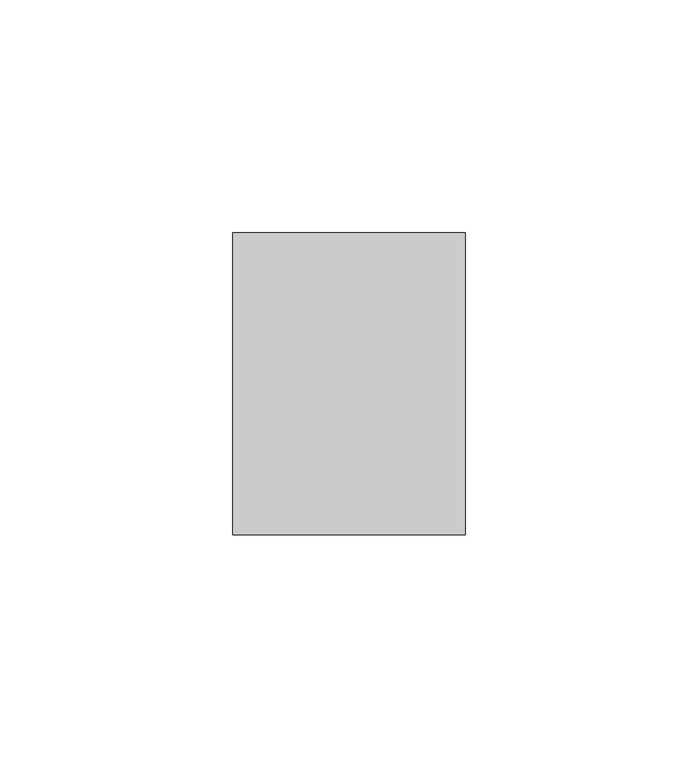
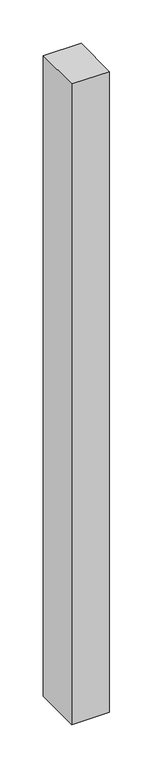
"""IFC4 building model written with IfcOpenShell, lengths in millimetres: member geometry, Прямоугольный импост : 50 мм x 65 мм."""

from ifc_helpers import new_model, si_unit, frame, origin, place, context, project, spatial, polyline, outline, extrude, source, transform, mapped, element, save


def member_0539de59(model_context):
    return source(origin(), model_context, "Body", "SweptSolid", [
        extrude(outline(polyline([(25.0, 32.5), (25.0, -32.5), (-25.0, -32.5), (-25.0, 32.5), (25.0, 32.5)])), frame((0.0, 0.0, -900.0000003), z_axis=(0.0, 0.0, 1.0), x_axis=(1.0, 0.0, 0.0)), (0.0, 0.0, 1.0), 900.0000003),
    ])


if __name__ == "__main__":
    model = new_model("IFC4")
    model_context = context("Model", 3, world=origin())
    ifc_project = project(units=[si_unit("LENGTHUNIT", "METRE", prefix="MILLI")], contexts=[model_context])
    site = spatial("IfcSite", under=ifc_project)
    building = spatial("IfcBuilding", under=site)
    placement = place(None, origin())
    member_shape = member_0539de59(model_context)
    element("IfcMember", 1, ObjectType="Прямоугольный импост : 50 мм x 65 мм", at=placement, inside=building, context=model_context, shape_type="MappedRepresentation", body=[
        mapped(member_shape, transform((0.0, 0.0, 0.0), x_axis=(1.0, 0.0, 0.0), y_axis=(0.0, 1.0, 0.0), z_axis=(0.0, 0.0, 1.0))),
    ])
    save(model, "model.ifc")
